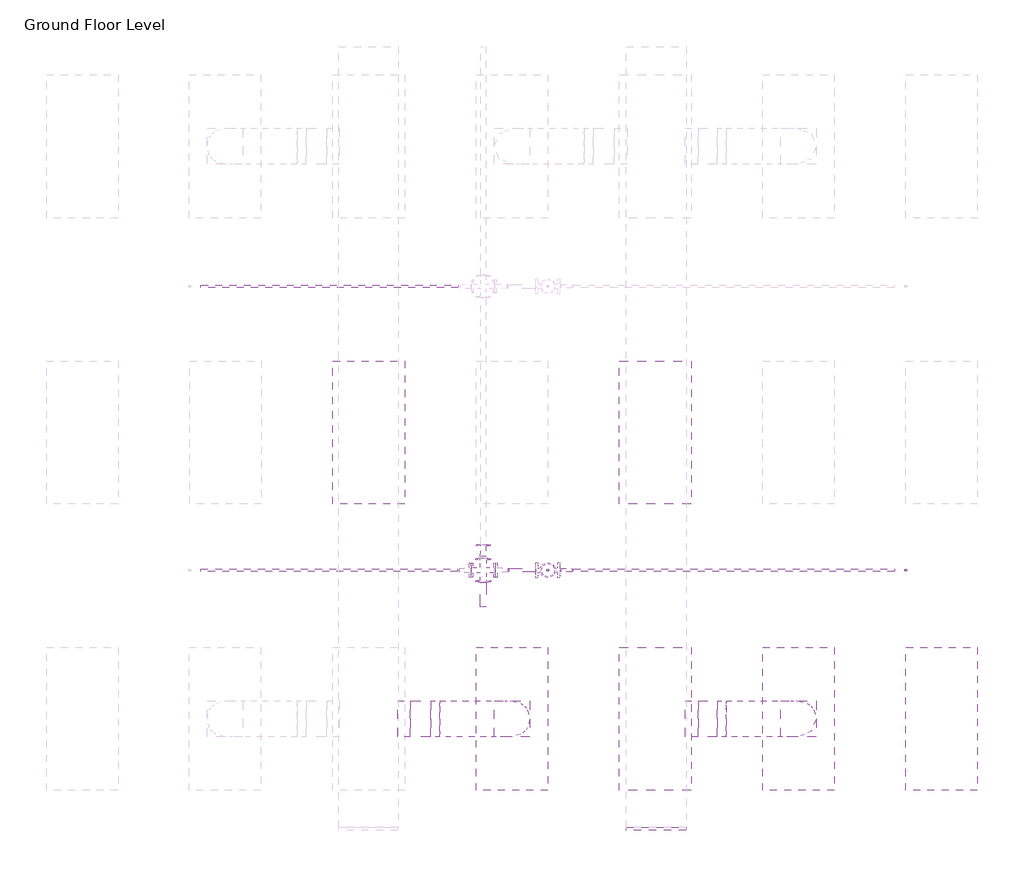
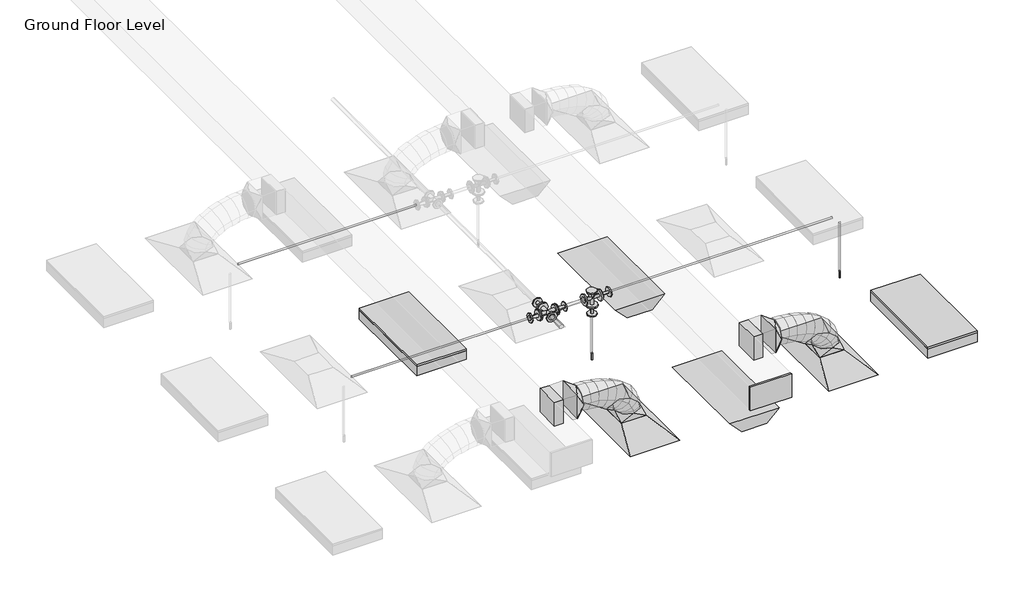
# One storey, part 44 of 68: 7 duct fittings, 7 pipe fittings, 7 pipe segments, 4 duct segments, 4 light fixtures, 2 air terminals, 2 fire suppression terminals.
"""IFC4 building model written with IfcOpenShell, lengths in millimetres."""

from ifc_helpers import new_model, si_unit, point, frame, frame_2d, origin, place, context, project, spatial, polyline, circle_curve, ellipse_curve, trimmed, segment, composite_curve, outline, extrude, transform, mapped, element, save
from ifc_brep_helpers import plane_surface, cylinder_surface, advanced_brep
from components import m_return_diffuser_1200x600_1200_x_600_face_300_x_300_d1983ef6, m_rectangular_endcap_standard_72d4d00d, m_rectangular_takeoff_standard_cb0ccb98, m_rectangular_to_round_transition_angle_45_degree_641efff0, m_sprinkler_dry_pendent_hosted_15_mm_dry_pendent_9bda8e11, m_emergency_recessed_lighting_fixture_600x1200_277_5b10b25d, m_troffer_light_parabolic_rectangular1_0600x1200mm_4_lamp_86473d4a, m_cross_flanged_cs_class_150_standard_fc817054, m_reducer_flanged_cs_class_150_standard_ccf252ad, m_reducer_flanged_cs_class_150_standard_d42b2106, m_reducer_flanged_cs_class_150_standard_83138b42, m_reducer_flanged_cs_class_150_standard_564df86d, m_reducer_flanged_cs_class_150_standard_8338f9e4, m_tee_round_base_flanged_cs_class_150_standard_7e5987a1

model = new_model("IFC4")

# Units and contexts
model_context = context("Model", 3, world=origin())
ifc_project = project(units=[si_unit("LENGTHUNIT", "METRE", prefix="MILLI")], contexts=[model_context])

# Site, building, storey
site = spatial("IfcSite", under=ifc_project)
building = spatial("IfcBuilding", under=site)
storey = spatial("IfcBuildingStorey", under=building, Name="Ground Floor Level", Elevation=900.0)

# Air terminals
placement = place(None, origin())
m_return_diffuser_1200x600_1200_x_600_face_300_x_300_shape = m_return_diffuser_1200x600_1200_x_600_face_300_x_300_d1983ef6(model_context)
element("IfcAirTerminal", 1, ObjectType="M_Supply Diffuser 1200x600 : 1200 x 600 Face 300 x 300 Connection", at=placement, inside=storey, context=model_context, shape_type="MappedRepresentation", body=[
    mapped(m_return_diffuser_1200x600_1200_x_600_face_300_x_300_shape, transform((-5737.2327605, 1635.2153534, 3650.0), x_axis=(0.0, 1.0, 0.0), y_axis=(-1.0, 0.0, 0.0), z_axis=(0.0, 0.0, 1.0))),
])
element("IfcAirTerminal", 2, ObjectType="M_Supply Diffuser 1200x600 : 1200 x 600 Face 300 x 300 Connection", at=placement, inside=storey, context=model_context, shape_type="MappedRepresentation", body=[
    mapped(m_return_diffuser_1200x600_1200_x_600_face_300_x_300_shape, transform((-3337.2327605, 1635.2153534, 3650.0), x_axis=(0.0, 1.0, 0.0), y_axis=(-1.0, 0.0, 0.0), z_axis=(0.0, 0.0, 1.0))),
])

# Duct fittings
m_rectangular_endcap_standard_shape = m_rectangular_endcap_standard_72d4d00d(model_context)
element("IfcDuctFitting", 3, ObjectType="M_Rectangular Endcap : Standard", at=placement, inside=storey, context=model_context, shape_type="MappedRepresentation", body=[
    mapped(m_rectangular_endcap_standard_shape, transform((-4528.6910789, 725.2312455, 4150.0403557), x_axis=(0.0, -0.999999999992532, 3.864729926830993e-06), y_axis=(1.0, 0.0, 0.0), z_axis=(0.0, 3.864729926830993e-06, 0.999999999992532))),
])
m_rectangular_takeoff_standard_shape = m_rectangular_takeoff_standard_cb0ccb98(model_context)
element("IfcDuctFitting", 4, ObjectType="M_Rectangular Takeoff : Standard", at=placement, inside=storey, context=model_context, shape_type="MappedRepresentation", body=[
    mapped(m_rectangular_takeoff_standard_shape, transform((-4278.6910789, 1635.2153534, 4150.0), x_axis=(1.0, 0.0, 0.0), y_axis=(0.0, -1.0, 0.0), z_axis=(0.0, 0.0, -1.0))),
])
element("IfcDuctFitting", 5, ObjectType="M_Rectangular Takeoff : Standard", at=placement, inside=storey, context=model_context, shape_type="MappedRepresentation", body=[
    mapped(m_rectangular_takeoff_standard_shape, transform((-6689.6910789, 1635.2153534, 4150.0), x_axis=(1.0, 0.0, 0.0), y_axis=(0.0, -1.0, 0.0), z_axis=(0.0, 0.0, -1.0))),
])
m_rectangular_to_round_transition_angle_45_degree_shape = m_rectangular_to_round_transition_angle_45_degree_641efff0(model_context)
element("IfcDuctFitting", 6, ObjectType="M_Rectangular to Round Transition - Angle : 45 Degree", at=placement, inside=storey, context=model_context, shape_type="MappedRepresentation", body=[
    mapped(m_rectangular_to_round_transition_angle_45_degree_shape, transform((-5737.2327605, 1635.2153534, 3751.6), x_axis=(0.0, 0.0, 1.0), y_axis=(-1.0, 0.0, 0.0), z_axis=(0.0, -1.0, 0.0))),
])
element("IfcDuctFitting", 7, ObjectType="M_Rectangular to Round Transition - Angle : 45 Degree", at=placement, inside=storey, context=model_context, shape_type="MappedRepresentation", body=[
    mapped(m_rectangular_to_round_transition_angle_45_degree_shape, transform((-6418.6686918, 1635.2153534, 4150.0), x_axis=(1.0, 0.0, 0.0), y_axis=(0.0, 1.0, 0.0), z_axis=(0.0, 0.0, 1.0))),
])
element("IfcDuctFitting", 8, ObjectType="M_Rectangular to Round Transition - Angle : 45 Degree", at=placement, inside=storey, context=model_context, shape_type="MappedRepresentation", body=[
    mapped(m_rectangular_to_round_transition_angle_45_degree_shape, transform((-3337.2327605, 1635.2153534, 3751.6), x_axis=(0.0, 0.0, 1.0), y_axis=(-1.0, 0.0, 0.0), z_axis=(0.0, -1.0, 0.0))),
])
element("IfcDuctFitting", 9, ObjectType="M_Rectangular to Round Transition - Angle : 45 Degree", at=placement, inside=storey, context=model_context, shape_type="MappedRepresentation", body=[
    mapped(m_rectangular_to_round_transition_angle_45_degree_shape, transform((-4018.6354231, 1635.2153534, 4150.0), x_axis=(1.0, 0.0, 0.0), y_axis=(0.0, 1.0, 0.0), z_axis=(0.0, 0.0, 1.0))),
])

# Duct segments
element("IfcDuctSegment", 10, ObjectType="Flex - Round", at=placement, inside=storey, context=model_context, shape_type="AdvancedBrep", body=[
    advanced_brep(
    [(-5587.2327605, 1635.2153534, 3826.6), (-5737.2327605, 1485.2153534, 3826.6), (-5887.2327605, 1635.2153534, 3826.6), (-5737.2327605, 1785.2153534, 3826.6), (-5587.2327605, 1635.2153534, 3882.1261126), (-5737.2327605, 1485.2153534, 3857.3049615), (-5887.2327605, 1635.2153534, 3832.4838104), (-5737.2327605, 1785.2153534, 3857.3049615), (-5618.4260847, 1635.2153534, 3973.7995287), (-5753.8941651, 1485.2153534, 3906.2708192), (-5889.3622454, 1635.2153534, 3838.7421096), (-5753.8941651, 1785.2153534, 3906.2708192), (-5688.1600922, 1635.2153534, 4076.4123668), (-5799.7721827, 1485.2153534, 3973.7798261), (-5911.3842733, 1635.2153534, 3871.1472855), (-5799.7721827, 1785.2153534, 3973.7798261), (-5786.0880408, 1635.2153534, 4155.7111802), (-5868.7075193, 1485.2153534, 4029.6013814), (-5951.3269979, 1635.2153534, 3903.4915826), (-5868.7075193, 1785.2153534, 4029.6013814), (-5894.832581, 1635.2153534, 4212.226815), (-5954.5408807, 1485.2153534, 4074.2098454), (-6014.2491805, 1635.2153534, 3936.1928758), (-5954.5408807, 1785.2153534, 4074.2098454), (-6009.1243732, 1635.2153534, 4252.311196), (-6051.1129728, 1485.2153534, 4108.0795788), (-6093.1015724, 1635.2153534, 3963.8479616), (-6051.1129728, 1785.2153534, 4108.0795788), (-6124.8554478, 1635.2153534, 4279.3189347), (-6152.2645014, 1485.2153534, 4131.684942), (-6179.6735551, 1635.2153534, 3984.0509494), (-6152.2645014, 1785.2153534, 4131.684942), (-6237.5146065, 1635.2153534, 4294.9501488), (-6251.8361725, 1485.2153534, 4145.5002956), (-6266.1577385, 1635.2153534, 3996.0504424), (-6251.8361725, 1785.2153534, 4145.5002956), (-6332.3362491, 1635.2153534, 4300.0), (-6336.3276445, 1485.2153534, 4150.0), (-6340.31904, 1635.2153534, 4000.0), (-6336.3276445, 1785.2153534, 4150.0), (-6343.6686918, 1635.2153534, 4300.0), (-6343.6686918, 1785.2153534, 4150.0), (-6343.6686918, 1635.2153534, 4000.0), (-6343.6686918, 1485.2153534, 4150.0)],
    [
        (0, 1, circle_curve(frame((-5737.2327605, 1635.2153534, 3826.6), z_axis=(0.0, 0.0, -1.0), x_axis=(1.0, 0.0, 0.0)), 150.0)),
        (1, 2, circle_curve(frame((-5737.2327605, 1635.2153534, 3826.6), z_axis=(0.0, 0.0, -1.0), x_axis=(1.0, 0.0, 0.0)), 150.0)),
        (2, 3, circle_curve(frame((-5737.2327605, 1635.2153534, 3826.6), z_axis=(0.0, 0.0, -1.0), x_axis=(1.0, 0.0, 0.0)), 150.0)),
        (3, 0, circle_curve(frame((-5737.2327605, 1635.2153534, 3826.6), z_axis=(0.0, 0.0, -1.0), x_axis=(1.0, 0.0, 0.0)), 150.0)),
        (0, 4),
        (4, 5, ellipse_curve(frame((-5737.2327605, 1635.2153534, 3857.3049615), z_axis=(0.1632543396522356, 0.0, -0.9865840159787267), x_axis=(-0.9865840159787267, 0.0, -0.16325433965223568)), 152.039763, 150.0)),
        (5, 1),
        (5, 6, ellipse_curve(frame((-5737.2327605, 1635.2153534, 3857.3049615), z_axis=(0.1632543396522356, 0.0, -0.9865840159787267), x_axis=(-0.9865840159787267, 0.0, -0.16325433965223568)), 152.039763, 150.0)),
        (6, 2),
        (6, 7, ellipse_curve(frame((-5737.2327605, 1635.2153534, 3857.3049615), z_axis=(0.1632543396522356, 0.0, -0.9865840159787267), x_axis=(-0.9865840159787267, 0.0, -0.16325433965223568)), 152.039763, 150.0)),
        (7, 3),
        (7, 4, ellipse_curve(frame((-5737.2327605, 1635.2153534, 3857.3049615), z_axis=(0.1632543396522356, 0.0, -0.9865840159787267), x_axis=(-0.9865840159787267, 0.0, -0.16325433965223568)), 152.039763, 150.0)),
        (4, 8),
        (8, 9, ellipse_curve(frame((-5753.8941651, 1635.2153534, 3906.2708192), z_axis=(0.4461280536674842, 0.0, -0.8949691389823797), x_axis=(-0.8949691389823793, 0.0, -0.4461280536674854)), 151.366203, 150.0)),
        (9, 5),
        (9, 10, ellipse_curve(frame((-5753.8941651, 1635.2153534, 3906.2708192), z_axis=(0.4461280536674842, 0.0, -0.8949691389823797), x_axis=(-0.8949691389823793, 0.0, -0.4461280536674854)), 151.366203, 150.0)),
        (10, 6),
        (10, 11, ellipse_curve(frame((-5753.8941651, 1635.2153534, 3906.2708192), z_axis=(0.4461280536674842, 0.0, -0.8949691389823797), x_axis=(-0.8949691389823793, 0.0, -0.4461280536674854)), 151.366203, 150.0)),
        (11, 7),
        (11, 8, ellipse_curve(frame((-5753.8941651, 1635.2153534, 3906.2708192), z_axis=(0.4461280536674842, 0.0, -0.8949691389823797), x_axis=(-0.8949691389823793, 0.0, -0.4461280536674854)), 151.366203, 150.0)),
        (8, 12),
        (12, 13, ellipse_curve(frame((-5799.7721827, 1635.2153534, 3973.7798261), z_axis=(0.676875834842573, 0.0, -0.7360972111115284), x_axis=(-0.7360972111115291, 0.0, -0.6768758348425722)), 151.6268352, 150.0)),
        (13, 9),
        (13, 14, ellipse_curve(frame((-5799.7721827, 1635.2153534, 3973.7798261), z_axis=(0.676875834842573, 0.0, -0.7360972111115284), x_axis=(-0.7360972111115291, 0.0, -0.6768758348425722)), 151.6268352, 150.0)),
        (14, 10),
        (14, 15, ellipse_curve(frame((-5799.7721827, 1635.2153534, 3973.7798261), z_axis=(0.676875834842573, 0.0, -0.7360972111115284), x_axis=(-0.7360972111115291, 0.0, -0.6768758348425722)), 151.6268352, 150.0)),
        (15, 11),
        (15, 12, ellipse_curve(frame((-5799.7721827, 1635.2153534, 3973.7798261), z_axis=(0.676875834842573, 0.0, -0.7360972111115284), x_axis=(-0.7360972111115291, 0.0, -0.6768758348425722)), 151.6268352, 150.0)),
        (12, 16),
        (16, 17, ellipse_curve(frame((-5868.7075193, 1635.2153534, 4029.6013814), z_axis=(0.8364738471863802, 0.0, -0.5480068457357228), x_axis=(-0.5480068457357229, 0.0, -0.8364738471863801)), 150.7635884, 150.0)),
        (17, 13),
        (17, 18, ellipse_curve(frame((-5868.7075193, 1635.2153534, 4029.6013814), z_axis=(0.8364738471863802, 0.0, -0.5480068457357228), x_axis=(-0.5480068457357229, 0.0, -0.8364738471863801)), 150.7635884, 150.0)),
        (18, 14),
        (18, 19, ellipse_curve(frame((-5868.7075193, 1635.2153534, 4029.6013814), z_axis=(0.8364738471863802, 0.0, -0.5480068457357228), x_axis=(-0.5480068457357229, 0.0, -0.8364738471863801)), 150.7635884, 150.0)),
        (19, 15),
        (19, 16, ellipse_curve(frame((-5868.7075193, 1635.2153534, 4029.6013814), z_axis=(0.8364738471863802, 0.0, -0.5480068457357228), x_axis=(-0.5480068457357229, 0.0, -0.8364738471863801)), 150.7635884, 150.0)),
        (16, 20),
        (20, 21, ellipse_curve(frame((-5954.5408807, 1635.2153534, 4074.2098454), z_axis=(0.917795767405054, 0.0, -0.3970528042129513), x_axis=(-0.3970528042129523, 0.0, -0.9177957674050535)), 150.3787384, 150.0)),
        (21, 17),
        (21, 22, ellipse_curve(frame((-5954.5408807, 1635.2153534, 4074.2098454), z_axis=(0.917795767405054, 0.0, -0.3970528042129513), x_axis=(-0.3970528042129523, 0.0, -0.9177957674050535)), 150.3787384, 150.0)),
        (22, 18),
        (22, 23, ellipse_curve(frame((-5954.5408807, 1635.2153534, 4074.2098454), z_axis=(0.917795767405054, 0.0, -0.3970528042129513), x_axis=(-0.3970528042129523, 0.0, -0.9177957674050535)), 150.3787384, 150.0)),
        (23, 19),
        (23, 20, ellipse_curve(frame((-5954.5408807, 1635.2153534, 4074.2098454), z_axis=(0.917795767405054, 0.0, -0.3970528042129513), x_axis=(-0.3970528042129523, 0.0, -0.9177957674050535)), 150.3787384, 150.0)),
        (20, 24),
        (24, 25, ellipse_curve(frame((-6051.1129728, 1635.2153534, 4108.0795788), z_axis=(0.9601411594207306, 0.0, -0.2795155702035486), x_axis=(-0.27951557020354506, 0.0, -0.9601411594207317)), 150.2191795, 150.0)),
        (25, 21),
        (25, 26, ellipse_curve(frame((-6051.1129728, 1635.2153534, 4108.0795788), z_axis=(0.9601411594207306, 0.0, -0.2795155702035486), x_axis=(-0.27951557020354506, 0.0, -0.9601411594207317)), 150.2191795, 150.0)),
        (26, 22),
        (26, 27, ellipse_curve(frame((-6051.1129728, 1635.2153534, 4108.0795788), z_axis=(0.9601411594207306, 0.0, -0.2795155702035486), x_axis=(-0.27951557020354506, 0.0, -0.9601411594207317)), 150.2191795, 150.0)),
        (27, 23),
        (27, 24, ellipse_curve(frame((-6051.1129728, 1635.2153534, 4108.0795788), z_axis=(0.9601411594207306, 0.0, -0.2795155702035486), x_axis=(-0.27951557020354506, 0.0, -0.9601411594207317)), 150.2191795, 150.0)),
        (24, 28),
        (28, 29, ellipse_curve(frame((-6152.2645014, 1635.2153534, 4131.684942), z_axis=(0.9831991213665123, 0.0, -0.1825362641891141), x_axis=(-0.18253626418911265, 0.0, -0.9831991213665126)), 150.1567581, 150.0)),
        (29, 25),
        (29, 30, ellipse_curve(frame((-6152.2645014, 1635.2153534, 4131.684942), z_axis=(0.9831991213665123, 0.0, -0.1825362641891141), x_axis=(-0.18253626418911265, 0.0, -0.9831991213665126)), 150.1567581, 150.0)),
        (30, 26),
        (30, 31, ellipse_curve(frame((-6152.2645014, 1635.2153534, 4131.684942), z_axis=(0.9831991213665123, 0.0, -0.1825362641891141), x_axis=(-0.18253626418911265, 0.0, -0.9831991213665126)), 150.1567581, 150.0)),
        (31, 27),
        (31, 28, ellipse_curve(frame((-6152.2645014, 1635.2153534, 4131.684942), z_axis=(0.9831991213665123, 0.0, -0.1825362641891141), x_axis=(-0.18253626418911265, 0.0, -0.9831991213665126)), 150.1567581, 150.0)),
        (28, 32),
        (32, 33, ellipse_curve(frame((-6251.8361725, 1635.2153534, 4145.5002956), z_axis=(0.9954398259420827, 0.0, -0.09539157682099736), x_axis=(-0.09539157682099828, 0.0, -0.9954398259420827)), 150.1344926, 150.0)),
        (33, 29),
        (33, 34, ellipse_curve(frame((-6251.8361725, 1635.2153534, 4145.5002956), z_axis=(0.9954398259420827, 0.0, -0.09539157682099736), x_axis=(-0.09539157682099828, 0.0, -0.9954398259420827)), 150.1344926, 150.0)),
        (34, 30),
        (34, 35, ellipse_curve(frame((-6251.8361725, 1635.2153534, 4145.5002956), z_axis=(0.9954398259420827, 0.0, -0.09539157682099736), x_axis=(-0.09539157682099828, 0.0, -0.9954398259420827)), 150.1344926, 150.0)),
        (35, 31),
        (35, 32, ellipse_curve(frame((-6251.8361725, 1635.2153534, 4145.5002956), z_axis=(0.9954398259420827, 0.0, -0.09539157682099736), x_axis=(-0.09539157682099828, 0.0, -0.9954398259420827)), 150.1344926, 150.0)),
        (32, 36),
        (36, 37, ellipse_curve(frame((-6336.3276445, 1635.2153534, 4150.0), z_axis=(0.9996461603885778, 0.0, -0.026599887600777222), x_axis=(-0.026599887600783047, 0.0, -0.9996461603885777)), 150.0530947, 150.0)),
        (37, 33),
        (37, 38, ellipse_curve(frame((-6336.3276445, 1635.2153534, 4150.0), z_axis=(0.9996461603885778, 0.0, -0.026599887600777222), x_axis=(-0.026599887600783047, 0.0, -0.9996461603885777)), 150.0530947, 150.0)),
        (38, 34),
        (38, 39, ellipse_curve(frame((-6336.3276445, 1635.2153534, 4150.0), z_axis=(0.9996461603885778, 0.0, -0.026599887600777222), x_axis=(-0.026599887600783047, 0.0, -0.9996461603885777)), 150.0530947, 150.0)),
        (39, 35),
        (39, 36, ellipse_curve(frame((-6336.3276445, 1635.2153534, 4150.0), z_axis=(0.9996461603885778, 0.0, -0.026599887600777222), x_axis=(-0.026599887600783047, 0.0, -0.9996461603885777)), 150.0530947, 150.0)),
        (40, 41, circle_curve(frame((-6343.6686918, 1635.2153534, 4150.0), z_axis=(-1.0, 0.0, 0.0), x_axis=(0.0, 0.0, 1.0)), 150.0)),
        (41, 42, circle_curve(frame((-6343.6686918, 1635.2153534, 4150.0), z_axis=(-1.0, 0.0, 0.0), x_axis=(0.0, 0.0, 1.0)), 150.0)),
        (42, 43, circle_curve(frame((-6343.6686918, 1635.2153534, 4150.0), z_axis=(-1.0, 0.0, 0.0), x_axis=(0.0, 0.0, 1.0)), 150.0)),
        (43, 40, circle_curve(frame((-6343.6686918, 1635.2153534, 4150.0), z_axis=(-1.0, 0.0, 0.0), x_axis=(0.0, 0.0, 1.0)), 150.0)),
        (36, 40),
        (43, 37),
        (42, 38),
        (41, 39),
    ],
    [
        plane_surface(frame((-5737.2327605, 1485.2153534, 3826.6), z_axis=(0.0, 0.0, -1.0), x_axis=(1.0, 0.0, 0.0))),
        cylinder_surface(frame((-5737.2327605, 1635.2153534, 3826.6), z_axis=(0.0, 0.0, -1.0), x_axis=(1.0, 0.0, 0.0)), 150.0),
        cylinder_surface(frame((-5737.2327605, 1635.2153534, 3857.3049615), z_axis=(0.32212824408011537, 0.0, -0.946696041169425), x_axis=(0.946696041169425, 0.0, 0.32212824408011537)), 150.0),
        cylinder_surface(frame((-5753.8941651, 1635.2153534, 3906.2708192), z_axis=(0.5620745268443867, 0.0, -0.8270865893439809), x_axis=(0.8270865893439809, 0.0, 0.5620745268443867)), 150.0),
        cylinder_surface(frame((-5799.7721827, 1635.2153534, 3973.7798261), z_axis=(0.777152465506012, 0.0, -0.6293123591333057), x_axis=(0.6293123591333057, 0.0, 0.777152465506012)), 150.0),
        cylinder_surface(frame((-5868.7075193, 1635.2153534, 4029.6013814), z_axis=(0.887322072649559, 0.0, -0.4611502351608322), x_axis=(0.4611502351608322, 0.0, 0.887322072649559)), 150.0),
        cylinder_surface(frame((-5954.5408807, 1635.2153534, 4074.2098454), z_axis=(0.9436464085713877, 0.0, -0.3309553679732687), x_axis=(0.3309553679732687, 0.0, 0.9436464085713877)), 150.0),
        cylinder_surface(frame((-6051.1129728, 1635.2153534, 4108.0795788), z_axis=(0.9738340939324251, 0.0, -0.2272601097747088), x_axis=(0.2272601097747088, 0.0, 0.9738340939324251)), 150.0),
        cylinder_surface(frame((-6152.2645014, 1635.2153534, 4131.684942), z_axis=(0.9905113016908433, 0.0, -0.1374312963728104), x_axis=(0.1374312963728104, 0.0, 0.9905113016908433)), 150.0),
        cylinder_surface(frame((-6251.8361725, 1635.2153534, 4145.5002956), z_axis=(0.998584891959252, 0.0, -0.05318095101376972), x_axis=(0.05318095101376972, 0.0, 0.998584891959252)), 150.0),
        plane_surface(frame((-6343.6686918, 1635.2153534, 4000.0), z_axis=(-1.0, 0.0, 0.0), x_axis=(0.0, -1.0, 0.0))),
        cylinder_surface(frame((-6336.3276445, 1635.2153534, 4150.0), z_axis=(1.0, 0.0, 0.0), x_axis=(0.0, 0.0, 1.0)), 150.0),
    ],
    [
        (0, [[1, 2, 3, 4]]),
        (1, [[-1, 5, 6, 7]]),
        (1, [[-2, -7, 8, 9]]),
        (1, [[-3, -9, 10, 11]]),
        (1, [[-4, -11, 12, -5]]),
        (2, [[-6, 13, 14, 15]]),
        (2, [[-8, -15, 16, 17]]),
        (2, [[-10, -17, 18, 19]]),
        (2, [[-12, -19, 20, -13]]),
        (3, [[-14, 21, 22, 23]]),
        (3, [[-16, -23, 24, 25]]),
        (3, [[-18, -25, 26, 27]]),
        (3, [[-20, -27, 28, -21]]),
        (4, [[-22, 29, 30, 31]]),
        (4, [[-24, -31, 32, 33]]),
        (4, [[-26, -33, 34, 35]]),
        (4, [[-28, -35, 36, -29]]),
        (5, [[-30, 37, 38, 39]]),
        (5, [[-32, -39, 40, 41]]),
        (5, [[-34, -41, 42, 43]]),
        (5, [[-36, -43, 44, -37]]),
        (6, [[-38, 45, 46, 47]]),
        (6, [[-40, -47, 48, 49]]),
        (6, [[-42, -49, 50, 51]]),
        (6, [[-44, -51, 52, -45]]),
        (7, [[-46, 53, 54, 55]]),
        (7, [[-48, -55, 56, 57]]),
        (7, [[-50, -57, 58, 59]]),
        (7, [[-52, -59, 60, -53]]),
        (8, [[-54, 61, 62, 63]]),
        (8, [[-56, -63, 64, 65]]),
        (8, [[-58, -65, 66, 67]]),
        (8, [[-60, -67, 68, -61]]),
        (9, [[-62, 69, 70, 71]]),
        (9, [[-64, -71, 72, 73]]),
        (9, [[-66, -73, 74, 75]]),
        (9, [[-68, -75, 76, -69]]),
        (10, [[77, 78, 79, 80]]),
        (11, [[-70, 81, -80, 82]]),
        (11, [[-72, -82, -79, 83]]),
        (11, [[-74, -83, -78, 84]]),
        (11, [[-76, -84, -77, -81]]),
    ],
),
])
element("IfcDuctSegment", 11, ObjectType="Flex - Round", at=placement, inside=storey, context=model_context, shape_type="AdvancedBrep", body=[
    advanced_brep(
    [(-3187.2327605, 1635.2153534, 3826.6), (-3337.2327605, 1485.2153534, 3826.6), (-3487.2327605, 1635.2153534, 3826.6), (-3337.2327605, 1785.2153534, 3826.6), (-3187.2327605, 1635.2153534, 3882.1248592), (-3337.2327605, 1485.2153534, 3857.3041834), (-3487.2327605, 1635.2153534, 3832.4835076), (-3337.2327605, 1785.2153534, 3857.3041834), (-3218.4243187, 1635.2153534, 3973.7949392), (-3353.8931369, 1485.2153534, 3906.2680098), (-3489.3619552, 1635.2153534, 3838.7410804), (-3353.8931369, 1785.2153534, 3906.2680098), (-3288.1539292, 1635.2153534, 4076.405552), (-3399.7683605, 1485.2153534, 3973.775698), (-3511.3827919, 1635.2153534, 3871.1458441), (-3399.7683605, 1785.2153534, 3973.775698), (-3386.0764792, 1635.2153534, 4155.7044937), (-3468.6995729, 1485.2153534, 4029.5970813), (-3551.3226667, 1635.2153534, 3903.4896689), (-3468.6995729, 1785.2153534, 4029.5970813), (-3494.8156459, 1635.2153534, 4212.2214394), (-3554.5279158, 1485.2153534, 4074.206176), (-3614.2401856, 1635.2153534, 3936.1909126), (-3554.5279158, 1785.2153534, 4074.206176), (-3609.1022421, 1635.2153534, 4252.3075608), (-3651.0945306, 1485.2153534, 4108.0769988), (-3693.0868191, 1635.2153534, 3963.8464368), (-3651.0945306, 1785.2153534, 4108.0769988), (-3724.828557, 1635.2153534, 4279.3170349), (-3752.240559, 1485.2153534, 4131.683566), (-3779.652561, 1635.2153534, 3984.0500972), (-3752.240559, 1785.2153534, 4131.683566), (-3837.483737, 1635.2153534, 4294.9495984), (-3851.8071426, 1485.2153534, 4145.4998943), (-3866.1305483, 1635.2153534, 3996.0501901), (-3851.8071426, 1785.2153534, 4145.4998943), (-3932.3013868, 1635.2153534, 4300.0), (-3936.2933845, 1485.2153534, 4150.0), (-3940.2853822, 1635.2153534, 4000.0), (-3936.2933845, 1785.2153534, 4150.0), (-3943.6354231, 1635.2153534, 4300.0), (-3943.6354231, 1785.2153534, 4150.0), (-3943.6354231, 1635.2153534, 4000.0), (-3943.6354231, 1485.2153534, 4150.0)],
    [
        (0, 1, circle_curve(frame((-3337.2327605, 1635.2153534, 3826.6), z_axis=(0.0, 0.0, -1.0), x_axis=(1.0, 0.0, 0.0)), 150.0)),
        (1, 2, circle_curve(frame((-3337.2327605, 1635.2153534, 3826.6), z_axis=(0.0, 0.0, -1.0), x_axis=(1.0, 0.0, 0.0)), 150.0)),
        (2, 3, circle_curve(frame((-3337.2327605, 1635.2153534, 3826.6), z_axis=(0.0, 0.0, -1.0), x_axis=(1.0, 0.0, 0.0)), 150.0)),
        (3, 0, circle_curve(frame((-3337.2327605, 1635.2153534, 3826.6), z_axis=(0.0, 0.0, -1.0), x_axis=(1.0, 0.0, 0.0)), 150.0)),
        (0, 4),
        (4, 5, ellipse_curve(frame((-3337.2327605, 1635.2153534, 3857.3041834), z_axis=(0.16325129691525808, 0.0, -0.9865845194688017), x_axis=(-0.9865845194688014, 0.0, -0.16325129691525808)), 152.0396854, 150.0)),
        (5, 1),
        (5, 6, ellipse_curve(frame((-3337.2327605, 1635.2153534, 3857.3041834), z_axis=(0.16325129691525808, 0.0, -0.9865845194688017), x_axis=(-0.9865845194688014, 0.0, -0.16325129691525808)), 152.0396854, 150.0)),
        (6, 2),
        (6, 7, ellipse_curve(frame((-3337.2327605, 1635.2153534, 3857.3041834), z_axis=(0.16325129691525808, 0.0, -0.9865845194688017), x_axis=(-0.9865845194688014, 0.0, -0.16325129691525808)), 152.0396854, 150.0)),
        (7, 3),
        (7, 4, ellipse_curve(frame((-3337.2327605, 1635.2153534, 3857.3041834), z_axis=(0.16325129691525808, 0.0, -0.9865845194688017), x_axis=(-0.9865845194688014, 0.0, -0.16325129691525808)), 152.0396854, 150.0)),
        (4, 8),
        (8, 9, ellipse_curve(frame((-3353.8931369, 1635.2153534, 3906.2680098), z_axis=(0.4461166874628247, 0.0, -0.894974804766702), x_axis=(-0.8949748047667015, 0.0, -0.4461166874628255)), 151.3660692, 150.0)),
        (9, 5),
        (9, 10, ellipse_curve(frame((-3353.8931369, 1635.2153534, 3906.2680098), z_axis=(0.4461166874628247, 0.0, -0.894974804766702), x_axis=(-0.8949748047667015, 0.0, -0.4461166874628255)), 151.3660692, 150.0)),
        (10, 6),
        (10, 11, ellipse_curve(frame((-3353.8931369, 1635.2153534, 3906.2680098), z_axis=(0.4461166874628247, 0.0, -0.894974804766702), x_axis=(-0.8949748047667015, 0.0, -0.4461166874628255)), 151.3660692, 150.0)),
        (11, 7),
        (11, 8, ellipse_curve(frame((-3353.8931369, 1635.2153534, 3906.2680098), z_axis=(0.4461166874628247, 0.0, -0.894974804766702), x_axis=(-0.8949748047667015, 0.0, -0.4461166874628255)), 151.3660692, 150.0)),
        (8, 12),
        (12, 13, ellipse_curve(frame((-3399.7683605, 1635.2153534, 3973.775698), z_axis=(0.6768585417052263, 0.0, -0.7361131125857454), x_axis=(-0.736113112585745, 0.0, -0.6768585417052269)), 151.6267398, 150.0)),
        (13, 9),
        (13, 14, ellipse_curve(frame((-3399.7683605, 1635.2153534, 3973.775698), z_axis=(0.6768585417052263, 0.0, -0.7361131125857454), x_axis=(-0.736113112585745, 0.0, -0.6768585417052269)), 151.6267398, 150.0)),
        (14, 10),
        (14, 15, ellipse_curve(frame((-3399.7683605, 1635.2153534, 3973.775698), z_axis=(0.6768585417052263, 0.0, -0.7361131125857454), x_axis=(-0.736113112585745, 0.0, -0.6768585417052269)), 151.6267398, 150.0)),
        (15, 11),
        (15, 12, ellipse_curve(frame((-3399.7683605, 1635.2153534, 3973.775698), z_axis=(0.6768585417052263, 0.0, -0.7361131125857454), x_axis=(-0.736113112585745, 0.0, -0.6768585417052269)), 151.6267398, 150.0)),
        (12, 16),
        (16, 17, ellipse_curve(frame((-3468.6995729, 1635.2153534, 4029.5970813), z_axis=(0.8364581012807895, 0.0, -0.5480308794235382), x_axis=(-0.5480308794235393, 0.0, -0.8364581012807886)), 150.7635735, 150.0)),
        (17, 13),
        (17, 18, ellipse_curve(frame((-3468.6995729, 1635.2153534, 4029.5970813), z_axis=(0.8364581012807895, 0.0, -0.5480308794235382), x_axis=(-0.5480308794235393, 0.0, -0.8364581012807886)), 150.7635735, 150.0)),
        (18, 14),
        (18, 19, ellipse_curve(frame((-3468.6995729, 1635.2153534, 4029.5970813), z_axis=(0.8364581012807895, 0.0, -0.5480308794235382), x_axis=(-0.5480308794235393, 0.0, -0.8364581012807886)), 150.7635735, 150.0)),
        (19, 15),
        (19, 16, ellipse_curve(frame((-3468.6995729, 1635.2153534, 4029.5970813), z_axis=(0.8364581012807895, 0.0, -0.5480308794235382), x_axis=(-0.5480308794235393, 0.0, -0.8364581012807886)), 150.7635735, 150.0)),
        (16, 20),
        (20, 21, ellipse_curve(frame((-3554.5279158, 1635.2153534, 4074.206176), z_axis=(0.9177843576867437, 0.0, -0.3970791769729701), x_axis=(-0.39707917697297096, 0.0, -0.9177843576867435)), 150.3787488, 150.0)),
        (21, 17),
        (21, 22, ellipse_curve(frame((-3554.5279158, 1635.2153534, 4074.206176), z_axis=(0.9177843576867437, 0.0, -0.3970791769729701), x_axis=(-0.39707917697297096, 0.0, -0.9177843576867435)), 150.3787488, 150.0)),
        (22, 18),
        (22, 23, ellipse_curve(frame((-3554.5279158, 1635.2153534, 4074.206176), z_axis=(0.9177843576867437, 0.0, -0.3970791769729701), x_axis=(-0.39707917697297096, 0.0, -0.9177843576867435)), 150.3787488, 150.0)),
        (23, 19),
        (23, 20, ellipse_curve(frame((-3554.5279158, 1635.2153534, 4074.206176), z_axis=(0.9177843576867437, 0.0, -0.3970791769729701), x_axis=(-0.39707917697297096, 0.0, -0.9177843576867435)), 150.3787488, 150.0)),
        (20, 24),
        (24, 25, ellipse_curve(frame((-3651.0945306, 1635.2153534, 4108.0769988), z_axis=(0.9601340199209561, 0.0, -0.27954009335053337), x_axis=(-0.2795400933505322, 0.0, -0.9601340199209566)), 150.2191975, 150.0)),
        (25, 21),
        (25, 26, ellipse_curve(frame((-3651.0945306, 1635.2153534, 4108.0769988), z_axis=(0.9601340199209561, 0.0, -0.27954009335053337), x_axis=(-0.2795400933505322, 0.0, -0.9601340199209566)), 150.2191975, 150.0)),
        (26, 22),
        (26, 27, ellipse_curve(frame((-3651.0945306, 1635.2153534, 4108.0769988), z_axis=(0.9601340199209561, 0.0, -0.27954009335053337), x_axis=(-0.2795400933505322, 0.0, -0.9601340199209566)), 150.2191975, 150.0)),
        (27, 23),
        (27, 24, ellipse_curve(frame((-3651.0945306, 1635.2153534, 4108.0769988), z_axis=(0.9601340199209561, 0.0, -0.27954009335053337), x_axis=(-0.2795400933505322, 0.0, -0.9601340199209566)), 150.2191975, 150.0)),
        (24, 28),
        (28, 29, ellipse_curve(frame((-3752.240559, 1635.2153534, 4131.683566), z_axis=(0.983195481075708, 0.0, -0.1825558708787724), x_axis=(-0.18255587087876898, 0.0, -0.9831954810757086)), 150.1567813, 150.0)),
        (29, 25),
        (29, 30, ellipse_curve(frame((-3752.240559, 1635.2153534, 4131.683566), z_axis=(0.983195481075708, 0.0, -0.1825558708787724), x_axis=(-0.18255587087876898, 0.0, -0.9831954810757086)), 150.1567813, 150.0)),
        (30, 26),
        (30, 31, ellipse_curve(frame((-3752.240559, 1635.2153534, 4131.683566), z_axis=(0.983195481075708, 0.0, -0.1825558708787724), x_axis=(-0.18255587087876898, 0.0, -0.9831954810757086)), 150.1567813, 150.0)),
        (31, 27),
        (31, 28, ellipse_curve(frame((-3752.240559, 1635.2153534, 4131.683566), z_axis=(0.983195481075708, 0.0, -0.1825558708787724), x_axis=(-0.18255587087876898, 0.0, -0.9831954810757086)), 150.1567813, 150.0)),
        (28, 32),
        (32, 33, ellipse_curve(frame((-3851.8071426, 1635.2153534, 4145.4998943), z_axis=(0.995438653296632, 0.0, -0.09540381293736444), x_axis=(-0.09540381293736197, 0.0, -0.9954386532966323)), 150.1345197, 150.0)),
        (33, 29),
        (33, 34, ellipse_curve(frame((-3851.8071426, 1635.2153534, 4145.4998943), z_axis=(0.995438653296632, 0.0, -0.09540381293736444), x_axis=(-0.09540381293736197, 0.0, -0.9954386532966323)), 150.1345197, 150.0)),
        (34, 30),
        (34, 35, ellipse_curve(frame((-3851.8071426, 1635.2153534, 4145.4998943), z_axis=(0.995438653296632, 0.0, -0.09540381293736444), x_axis=(-0.09540381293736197, 0.0, -0.9954386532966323)), 150.1345197, 150.0)),
        (35, 31),
        (35, 32, ellipse_curve(frame((-3851.8071426, 1635.2153534, 4145.4998943), z_axis=(0.995438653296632, 0.0, -0.09540381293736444), x_axis=(-0.09540381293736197, 0.0, -0.9954386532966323)), 150.1345197, 150.0)),
        (32, 36),
        (36, 37, ellipse_curve(frame((-3936.2933845, 1635.2153534, 4150.0), z_axis=(0.9996460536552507, 0.0, -0.026603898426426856), x_axis=(-0.026603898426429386, 0.0, -0.9996460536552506)), 150.0531108, 150.0)),
        (37, 33),
        (37, 38, ellipse_curve(frame((-3936.2933845, 1635.2153534, 4150.0), z_axis=(0.9996460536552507, 0.0, -0.026603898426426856), x_axis=(-0.026603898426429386, 0.0, -0.9996460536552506)), 150.0531108, 150.0)),
        (38, 34),
        (38, 39, ellipse_curve(frame((-3936.2933845, 1635.2153534, 4150.0), z_axis=(0.9996460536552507, 0.0, -0.026603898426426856), x_axis=(-0.026603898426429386, 0.0, -0.9996460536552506)), 150.0531108, 150.0)),
        (39, 35),
        (39, 36, ellipse_curve(frame((-3936.2933845, 1635.2153534, 4150.0), z_axis=(0.9996460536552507, 0.0, -0.026603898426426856), x_axis=(-0.026603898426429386, 0.0, -0.9996460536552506)), 150.0531108, 150.0)),
        (40, 41, circle_curve(frame((-3943.6354231, 1635.2153534, 4150.0), z_axis=(-1.0, 0.0, 0.0), x_axis=(0.0, 0.0, 1.0)), 150.0)),
        (41, 42, circle_curve(frame((-3943.6354231, 1635.2153534, 4150.0), z_axis=(-1.0, 0.0, 0.0), x_axis=(0.0, 0.0, 1.0)), 150.0)),
        (42, 43, circle_curve(frame((-3943.6354231, 1635.2153534, 4150.0), z_axis=(-1.0, 0.0, 0.0), x_axis=(0.0, 0.0, 1.0)), 150.0)),
        (43, 40, circle_curve(frame((-3943.6354231, 1635.2153534, 4150.0), z_axis=(-1.0, 0.0, 0.0), x_axis=(0.0, 0.0, 1.0)), 150.0)),
        (36, 40),
        (43, 37),
        (42, 38),
        (41, 39),
    ],
    [
        plane_surface(frame((-3337.2327605, 1485.2153534, 3826.6), z_axis=(0.0, 0.0, -1.0), x_axis=(1.0, 0.0, 0.0))),
        cylinder_surface(frame((-3337.2327605, 1635.2153534, 3826.6), z_axis=(0.0, 0.0, -1.0), x_axis=(1.0, 0.0, 0.0)), 150.0),
        cylinder_surface(frame((-3337.2327605, 1635.2153534, 3857.3041834), z_axis=(0.3221224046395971, 0.0, -0.9466980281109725), x_axis=(0.9466980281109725, 0.0, 0.3221224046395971)), 150.0),
        cylinder_surface(frame((-3353.8931369, 1635.2153534, 3906.2680098), z_axis=(0.5620586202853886, 0.0, -0.827097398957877), x_axis=(0.827097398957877, 0.0, 0.5620586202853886)), 150.0),
        cylinder_surface(frame((-3399.7683605, 1635.2153534, 3973.775698), z_axis=(0.7771349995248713, 0.0, -0.6293339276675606), x_axis=(0.6293339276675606, 0.0, 0.7771349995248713)), 150.0),
        cylinder_surface(frame((-3468.6995729, 1635.2153534, 4029.5970813), z_axis=(0.887308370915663, 0.0, -0.46117659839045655), x_axis=(0.46117659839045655, 0.0, 0.887308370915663)), 150.0),
        cylinder_surface(frame((-3554.5279158, 1635.2153534, 4074.206176), z_axis=(0.9436372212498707, 0.0, -0.3309815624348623), x_axis=(0.3309815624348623, 0.0, 0.9436372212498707)), 150.0),
        cylinder_surface(frame((-3651.0945306, 1635.2153534, 4108.0769988), z_axis=(0.9738287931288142, 0.0, -0.22728282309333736), x_axis=(0.22728282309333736, 0.0, 0.9738287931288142)), 150.0),
        cylinder_surface(frame((-3752.240559, 1635.2153534, 4131.683566), z_axis=(0.9905090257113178, 0.0, -0.13744769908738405), x_axis=(0.13744769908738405, 0.0, 0.9905090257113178)), 150.0),
        cylinder_surface(frame((-3851.8071426, 1635.2153534, 4145.4998943), z_axis=(0.9985844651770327, 0.0, -0.05318896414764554), x_axis=(0.05318896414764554, 0.0, 0.9985844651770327)), 150.0),
        plane_surface(frame((-3943.6354231, 1635.2153534, 4000.0), z_axis=(-1.0, 0.0, 0.0), x_axis=(0.0, -1.0, 0.0))),
        cylinder_surface(frame((-3936.2933845, 1635.2153534, 4150.0), z_axis=(1.0, 0.0, 0.0), x_axis=(0.0, 0.0, 1.0)), 150.0),
    ],
    [
        (0, [[1, 2, 3, 4]]),
        (1, [[-1, 5, 6, 7]]),
        (1, [[-2, -7, 8, 9]]),
        (1, [[-3, -9, 10, 11]]),
        (1, [[-4, -11, 12, -5]]),
        (2, [[-6, 13, 14, 15]]),
        (2, [[-8, -15, 16, 17]]),
        (2, [[-10, -17, 18, 19]]),
        (2, [[-12, -19, 20, -13]]),
        (3, [[-14, 21, 22, 23]]),
        (3, [[-16, -23, 24, 25]]),
        (3, [[-18, -25, 26, 27]]),
        (3, [[-20, -27, 28, -21]]),
        (4, [[-22, 29, 30, 31]]),
        (4, [[-24, -31, 32, 33]]),
        (4, [[-26, -33, 34, 35]]),
        (4, [[-28, -35, 36, -29]]),
        (5, [[-30, 37, 38, 39]]),
        (5, [[-32, -39, 40, 41]]),
        (5, [[-34, -41, 42, 43]]),
        (5, [[-36, -43, 44, -37]]),
        (6, [[-38, 45, 46, 47]]),
        (6, [[-40, -47, 48, 49]]),
        (6, [[-42, -49, 50, 51]]),
        (6, [[-44, -51, 52, -45]]),
        (7, [[-46, 53, 54, 55]]),
        (7, [[-48, -55, 56, 57]]),
        (7, [[-50, -57, 58, 59]]),
        (7, [[-52, -59, 60, -53]]),
        (8, [[-54, 61, 62, 63]]),
        (8, [[-56, -63, 64, 65]]),
        (8, [[-58, -65, 66, 67]]),
        (8, [[-60, -67, 68, -61]]),
        (9, [[-62, 69, 70, 71]]),
        (9, [[-64, -71, 72, 73]]),
        (9, [[-66, -73, 74, 75]]),
        (9, [[-68, -75, 76, -69]]),
        (10, [[77, 78, 79, 80]]),
        (11, [[-70, 81, -80, 82]]),
        (11, [[-72, -82, -79, 83]]),
        (11, [[-74, -83, -78, 84]]),
        (11, [[-76, -84, -77, -81]]),
    ],
),
])
element("IfcDuctSegment", 12, ObjectType="Radius Elbows / Taps", at=placement, inside=storey, context=model_context, shape_type="SweptSolid", body=[
    extrude(outline(polyline([(-4177.0910789, 1485.2153534), (-4177.0910789, 1785.2153534), (-4018.6354231, 1785.2153534), (-4018.6354231, 1485.2153534), (-4177.0910789, 1485.2153534)])), frame((0.0, 0.0, 4000.0), z_axis=(0.0, 0.0, 1.0), x_axis=(1.0, 0.0, 0.0)), (0.0, 0.0, 1.0), 300.0),
])
element("IfcDuctSegment", 13, ObjectType="Radius Elbows / Taps", at=placement, inside=storey, context=model_context, shape_type="SweptSolid", body=[
    extrude(outline(polyline([(-6588.0910789, 1485.2153534), (-6588.0910789, 1785.2153534), (-6418.6686918, 1785.2153534), (-6418.6686918, 1485.2153534), (-6588.0910789, 1485.2153534)])), frame((0.0, 0.0, 4000.0), z_axis=(0.0, 0.0, 1.0), x_axis=(1.0, 0.0, 0.0)), (0.0, 0.0, 1.0), 300.0),
])

# Fire suppression terminals
m_sprinkler_dry_pendent_hosted_15_mm_dry_pendent_shape = m_sprinkler_dry_pendent_hosted_15_mm_dry_pendent_9bda8e11(model_context)
element("IfcFireSuppressionTerminal", 14, ObjectType="M_Sprinkler - Dry - Pendent - Hosted : 15 mm Dry Pendent", at=placement, inside=storey, context=model_context, shape_type="MappedRepresentation", body=[
    mapped(m_sprinkler_dry_pendent_hosted_15_mm_dry_pendent_shape, transform((-2437.2327605, 2881.5134565, 3650.0), x_axis=(1.0, 0.0, 0.0), y_axis=(0.0, -1.0, 0.0), z_axis=(0.0, 0.0, -1.0))),
])
element("IfcFireSuppressionTerminal", 15, ObjectType="M_Sprinkler - Dry - Pendent - Hosted : 15 mm Dry Pendent", at=placement, inside=storey, context=model_context, shape_type="MappedRepresentation", body=[
    mapped(m_sprinkler_dry_pendent_hosted_15_mm_dry_pendent_shape, transform((-5437.2327605, 2881.5134565, 3650.0), x_axis=(1.0, 0.0, 0.0), y_axis=(0.0, -1.0, 0.0), z_axis=(0.0, 0.0, -1.0))),
])

# Light fixtures
m_emergency_recessed_lighting_fixture_600x1200_277_shape = m_emergency_recessed_lighting_fixture_600x1200_277_5b10b25d(model_context)
element("IfcLightFixture", 16, ObjectType="M_Emergency Recessed Lighting Fixture : 600x1200 - 277", at=placement, inside=storey, context=model_context, shape_type="MappedRepresentation", body=[
    mapped(m_emergency_recessed_lighting_fixture_600x1200_277_shape, transform((-4837.2327605, 3435.2153534, 3650.0), x_axis=(0.0, 1.0, 0.0), y_axis=(-1.0, 0.0, 0.0), z_axis=(0.0, 0.0, 1.0))),
])
element("IfcLightFixture", 17, ObjectType="M_Emergency Recessed Lighting Fixture : 600x1200 - 277", at=placement, inside=storey, context=model_context, shape_type="MappedRepresentation", body=[
    mapped(m_emergency_recessed_lighting_fixture_600x1200_277_shape, transform((-4837.2327605, 1035.2153534, 3650.0), x_axis=(0.0, 1.0, 0.0), y_axis=(-1.0, 0.0, 0.0), z_axis=(0.0, 0.0, 1.0))),
])
m_troffer_light_parabolic_rectangular1_0600x1200mm_4_lamp_shape = m_troffer_light_parabolic_rectangular1_0600x1200mm_4_lamp_86473d4a(model_context)
element("IfcLightFixture", 18, ObjectType="M_Troffer Light - Parabolic Rectangular1 : 0600x1200mm(4 Lamp) - 277V 2", at=placement, inside=storey, context=model_context, shape_type="MappedRepresentation", body=[
    mapped(m_troffer_light_parabolic_rectangular1_0600x1200mm_4_lamp_shape, transform((-6996.6986926, 4053.918855, 3650.0), x_axis=(0.0, 1.0, 0.0), y_axis=(-1.0, 0.0, 0.0), z_axis=(0.0, 0.0, 1.0))),
])
element("IfcLightFixture", 19, ObjectType="M_Troffer Light - Parabolic Rectangular1 : 0600x1200mm(4 Lamp) - 277V 2", at=placement, inside=storey, context=model_context, shape_type="MappedRepresentation", body=[
    mapped(m_troffer_light_parabolic_rectangular1_0600x1200mm_4_lamp_shape, transform((-2196.6986926, 1653.918855, 3650.0), x_axis=(0.0, 1.0, 0.0), y_axis=(-1.0, 0.0, 0.0), z_axis=(0.0, 0.0, 1.0))),
])

# Pipe fittings
m_cross_flanged_cs_class_150_standard_shape = m_cross_flanged_cs_class_150_standard_fc817054(model_context)
element("IfcPipeFitting", 20, ObjectType="M_Cross - Flanged - CS - Class 150 : Standard", at=placement, inside=storey, context=model_context, shape_type="MappedRepresentation", body=[
    mapped(m_cross_flanged_cs_class_150_standard_shape, transform((-5978.130502, 2881.5134565, 4360.0), x_axis=(0.0, 1.0, 0.0), y_axis=(1.0, 0.0, 0.0), z_axis=(0.0, 0.0, -1.0))),
])
m_reducer_flanged_cs_class_150_standard_shape = m_reducer_flanged_cs_class_150_standard_ccf252ad(model_context)
element("IfcPipeFitting", 21, ObjectType="M_Reducer - Flanged - CS - Class 150 : Standard", at=placement, inside=storey, context=model_context, shape_type="MappedRepresentation", body=[
    mapped(m_reducer_flanged_cs_class_150_standard_shape, transform((-5437.2327605, 2881.5134565, 4259.2914063), x_axis=(0.0, 0.0, -1.0), y_axis=(-1.0, 0.0, 0.0), z_axis=(0.0, 1.0, 0.0))),
])
m_reducer_flanged_cs_class_150_standard_2_shape = m_reducer_flanged_cs_class_150_standard_d42b2106(model_context)
element("IfcPipeFitting", 22, ObjectType="M_Reducer - Flanged - CS - Class 150 : Standard", at=placement, inside=storey, context=model_context, shape_type="MappedRepresentation", body=[
    mapped(m_reducer_flanged_cs_class_150_standard_2_shape, transform((-5336.5241668, 2881.5134565, 4360.0), x_axis=(1.0, 0.0, 0.0), y_axis=(0.0, 1.0, 0.0), z_axis=(0.0, 0.0, 1.0))),
])
m_reducer_flanged_cs_class_150_standard_3_shape = m_reducer_flanged_cs_class_150_standard_83138b42(model_context)
element("IfcPipeFitting", 23, ObjectType="M_Reducer - Flanged - CS - Class 150 : Standard", at=placement, inside=storey, context=model_context, shape_type="MappedRepresentation", body=[
    mapped(m_reducer_flanged_cs_class_150_standard_3_shape, transform((-6080.130502, 2881.5134565, 4360.0), x_axis=(-1.0, 0.0, 0.0), y_axis=(0.0, 0.0, -1.0), z_axis=(0.0, -1.0, 0.0))),
])
m_reducer_flanged_cs_class_150_standard_4_shape = m_reducer_flanged_cs_class_150_standard_564df86d(model_context)
element("IfcPipeFitting", 24, ObjectType="M_Reducer - Flanged - CS - Class 150 : Standard", at=placement, inside=storey, context=model_context, shape_type="MappedRepresentation", body=[
    mapped(m_reducer_flanged_cs_class_150_standard_4_shape, transform((-5978.130502, 2983.5134565, 4360.0), x_axis=(0.0, 1.0, 0.0), y_axis=(-1.0, 0.0, 0.0), z_axis=(0.0, 0.0, 1.0))),
])
m_reducer_flanged_cs_class_150_standard_5_shape = m_reducer_flanged_cs_class_150_standard_8338f9e4(model_context)
element("IfcPipeFitting", 25, ObjectType="M_Reducer - Flanged - CS - Class 150 : Standard", at=placement, inside=storey, context=model_context, shape_type="MappedRepresentation", body=[
    mapped(m_reducer_flanged_cs_class_150_standard_5_shape, transform((-5876.130502, 2881.5134565, 4360.0), x_axis=(1.0, 0.0, 0.0), y_axis=(0.0, 1.0, 0.0), z_axis=(0.0, 0.0, 1.0))),
])
m_tee_round_base_flanged_cs_class_150_standard_shape = m_tee_round_base_flanged_cs_class_150_standard_7e5987a1(model_context)
element("IfcPipeFitting", 26, ObjectType="M_Tee Round Base - Flanged - CS - Class 150 : Standard", at=placement, inside=storey, context=model_context, shape_type="MappedRepresentation", body=[
    mapped(m_tee_round_base_flanged_cs_class_150_standard_shape, transform((-5437.2327605, 2881.5134565, 4360.0), x_axis=(1.0, 0.0, 0.0), y_axis=(0.0, 0.0, 1.0), z_axis=(0.0, -1.0, 0.0))),
])

# Pipe segments
element("IfcPipeSegment", 27, ObjectType="Steel flanged", at=placement, inside=storey, context=model_context, shape_type="SweptSolid", body=[
    extrude(outline(composite_curve([segment(trimmed(circle_curve(frame_2d((5261.0372753, 4360.0)), 10.668), [point((5250.3692753, 4360.0))], [point((5261.0372753, 4370.668))], False, "CARTESIAN"), True, "CONTINUOUS"), segment(trimmed(circle_curve(frame_2d((5261.0372753, 4360.0)), 10.668), [point((5261.0372753, 4370.668))], [point((5271.7052753, 4360.0))], False, "CARTESIAN"), True, "CONTINUOUS"), segment(trimmed(circle_curve(frame_2d((5261.0372753, 4360.0)), 10.668), [point((5271.7052753, 4360.0))], [point((5261.0372753, 4349.332))], False, "CARTESIAN"), True, "CONTINUOUS"), segment(trimmed(circle_curve(frame_2d((5261.0372753, 4360.0)), 10.668), [point((5261.0372753, 4349.332))], [point((5250.3692753, 4360.0))], False, "CARTESIAN"), True, "CONTINUOUS")], self_intersect=False)), frame((-8344.2241668, 0.0, 0.0), z_axis=(1.0, 0.0, 0.0), x_axis=(0.0, 1.0, 0.0)), (0.0, 0.0, 1.0), 2157.0936648),
])
element("IfcPipeSegment", 28, ObjectType="Steel flanged", at=placement, inside=storey, context=model_context, shape_type="SweptSolid", body=[
    extrude(outline(composite_curve([segment(trimmed(circle_curve(frame_2d((2881.5134565, 4360.0)), 10.668), [point((2870.8454565, 4360.0))], [point((2881.5134565, 4370.668))], False, "CARTESIAN"), True, "CONTINUOUS"), segment(trimmed(circle_curve(frame_2d((2881.5134565, 4360.0)), 10.668), [point((2881.5134565, 4370.668))], [point((2892.1814565, 4360.0))], False, "CARTESIAN"), True, "CONTINUOUS"), segment(trimmed(circle_curve(frame_2d((2881.5134565, 4360.0)), 10.668), [point((2892.1814565, 4360.0))], [point((2881.5134565, 4349.332))], False, "CARTESIAN"), True, "CONTINUOUS"), segment(trimmed(circle_curve(frame_2d((2881.5134565, 4360.0)), 10.668), [point((2881.5134565, 4349.332))], [point((2870.8454565, 4360.0))], False, "CARTESIAN"), True, "CONTINUOUS")], self_intersect=False)), frame((-8344.2241668, 0.0, 0.0), z_axis=(1.0, 0.0, 0.0), x_axis=(0.0, 1.0, 0.0)), (0.0, 0.0, 1.0), 2150.0936648),
])
element("IfcPipeSegment", 29, ObjectType="Steel flanged", at=placement, inside=storey, context=model_context, shape_type="SweptSolid", body=[
    extrude(outline(composite_curve([segment(trimmed(circle_curve(frame_2d((0.0, -24.13)), 24.13), [point((0.0, 0.0))], [point((24.13, -24.13))], False, "CARTESIAN"), True, "CONTINUOUS"), segment(trimmed(circle_curve(frame_2d((0.0, -24.13)), 24.13), [point((24.13, -24.13))], [point((0.0, -48.26))], False, "CARTESIAN"), True, "CONTINUOUS"), segment(trimmed(circle_curve(frame_2d((0.0, -24.13)), 24.13), [point((0.0, -48.26))], [point((-24.13, -24.13))], False, "CARTESIAN"), True, "CONTINUOUS"), segment(trimmed(circle_curve(frame_2d((0.0, -24.13)), 24.13), [point((-24.13, -24.13))], [point((0.0, 0.0))], False, "CARTESIAN"), True, "CONTINUOUS")], self_intersect=False)), frame((-6002.260502, 2573.2009828, 4360.0), z_axis=(-1.0658141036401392e-12, 1.0, 0.0), x_axis=(0.0, 0.0, -1.0)), (0.0, 0.0, 1.0), 206.3124738),
])
element("IfcPipeSegment", 30, ObjectType="Steel flanged", at=placement, inside=storey, context=model_context, shape_type="SweptSolid", body=[
    extrude(outline(composite_curve([segment(trimmed(circle_curve(frame_2d((-2437.2327605, 2881.5134565)), 10.668), [point((-2447.9007605, 2881.5134565))], [point((-2437.2327605, 2892.1814565))], False, "CARTESIAN"), True, "CONTINUOUS"), segment(trimmed(circle_curve(frame_2d((-2437.2327605, 2881.5134565)), 10.668), [point((-2437.2327605, 2892.1814565))], [point((-2426.5647605, 2881.5134565))], False, "CARTESIAN"), True, "CONTINUOUS"), segment(trimmed(circle_curve(frame_2d((-2437.2327605, 2881.5134565)), 10.668), [point((-2426.5647605, 2881.5134565))], [point((-2437.2327605, 2870.8454565))], False, "CARTESIAN"), True, "CONTINUOUS"), segment(trimmed(circle_curve(frame_2d((-2437.2327605, 2881.5134565)), 10.668), [point((-2437.2327605, 2870.8454565))], [point((-2447.9007605, 2881.5134565))], False, "CARTESIAN"), True, "CONTINUOUS")], self_intersect=False)), frame((0.0, 0.0, 3650.0), z_axis=(0.0, 0.0, 1.0), x_axis=(1.0, 0.0, 0.0)), (0.0, 0.0, 1.0), 616.9914063),
])
element("IfcPipeSegment", 31, ObjectType="Steel flanged", at=placement, inside=storey, context=model_context, shape_type="SweptSolid", body=[
    extrude(outline(composite_curve([segment(trimmed(circle_curve(frame_2d((-5437.2327605, 2881.5134565)), 10.668), [point((-5447.9007605, 2881.5134565))], [point((-5437.2327605, 2892.1814565))], False, "CARTESIAN"), True, "CONTINUOUS"), segment(trimmed(circle_curve(frame_2d((-5437.2327605, 2881.5134565)), 10.668), [point((-5437.2327605, 2892.1814565))], [point((-5426.5647605, 2881.5134565))], False, "CARTESIAN"), True, "CONTINUOUS"), segment(trimmed(circle_curve(frame_2d((-5437.2327605, 2881.5134565)), 10.668), [point((-5426.5647605, 2881.5134565))], [point((-5437.2327605, 2870.8454565))], False, "CARTESIAN"), True, "CONTINUOUS"), segment(trimmed(circle_curve(frame_2d((-5437.2327605, 2881.5134565)), 10.668), [point((-5437.2327605, 2870.8454565))], [point((-5447.9007605, 2881.5134565))], False, "CARTESIAN"), True, "CONTINUOUS")], self_intersect=False)), frame((0.0, 0.0, 3650.0), z_axis=(0.0, 0.0, 1.0), x_axis=(1.0, 0.0, 0.0)), (0.0, 0.0, 1.0), 495.2914062),
])
element("IfcPipeSegment", 32, ObjectType="Steel flanged", at=placement, inside=storey, context=model_context, shape_type="SweptSolid", body=[
    extrude(outline(composite_curve([segment(trimmed(circle_curve(frame_2d((2881.5134565, 4360.0)), 16.7005), [point((2898.2139565, 4360.0))], [point((2881.5134565, 4343.2995))], False, "CARTESIAN"), True, "CONTINUOUS"), segment(trimmed(circle_curve(frame_2d((2881.5134565, 4360.0)), 16.7005), [point((2881.5134565, 4343.2995))], [point((2864.8129565, 4360.0))], False, "CARTESIAN"), True, "CONTINUOUS"), segment(trimmed(circle_curve(frame_2d((2881.5134565, 4360.0)), 16.7005), [point((2864.8129565, 4360.0))], [point((2881.5134565, 4376.7005))], False, "CARTESIAN"), True, "CONTINUOUS"), segment(trimmed(circle_curve(frame_2d((2881.5134565, 4360.0)), 16.7005), [point((2881.5134565, 4376.7005))], [point((2898.2139565, 4360.0))], False, "CARTESIAN"), True, "CONTINUOUS")], self_intersect=False)), frame((-5762.130502, 0.0, 0.0), z_axis=(1.0, 0.0, 0.0), x_axis=(0.0, 1.0, 0.0)), (0.0, 0.0, 1.0), 224.1891477),
])
element("IfcPipeSegment", 33, ObjectType="Steel flanged", at=placement, inside=storey, context=model_context, shape_type="SweptSolid", body=[
    extrude(outline(composite_curve([segment(trimmed(circle_curve(frame_2d((2881.5134565, 4360.0)), 10.668), [point((2892.1814565, 4360.0))], [point((2881.5134565, 4349.332))], False, "CARTESIAN"), True, "CONTINUOUS"), segment(trimmed(circle_curve(frame_2d((2881.5134565, 4360.0)), 10.668), [point((2881.5134565, 4349.332))], [point((2870.8454565, 4360.0))], False, "CARTESIAN"), True, "CONTINUOUS"), segment(trimmed(circle_curve(frame_2d((2881.5134565, 4360.0)), 10.668), [point((2870.8454565, 4360.0))], [point((2881.5134565, 4370.668))], False, "CARTESIAN"), True, "CONTINUOUS"), segment(trimmed(circle_curve(frame_2d((2881.5134565, 4360.0)), 10.668), [point((2881.5134565, 4370.668))], [point((2892.1814565, 4360.0))], False, "CARTESIAN"), True, "CONTINUOUS")], self_intersect=False)), frame((-5222.5241668, 0.0, 0.0), z_axis=(1.0, 0.0, 0.0), x_axis=(0.0, 1.0, 0.0)), (0.0, 0.0, 1.0), 2692.2828125),
])

save(model, "model.ifc")
